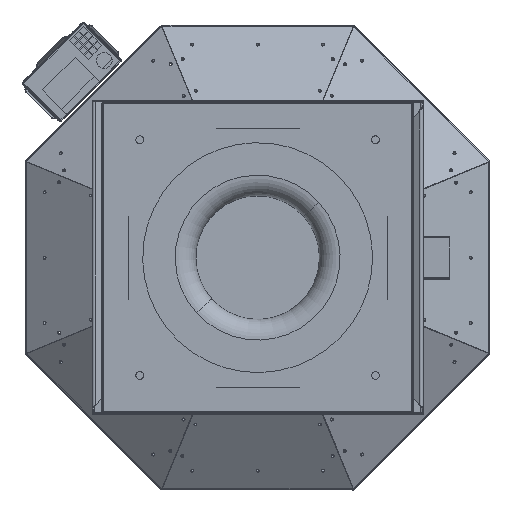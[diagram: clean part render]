
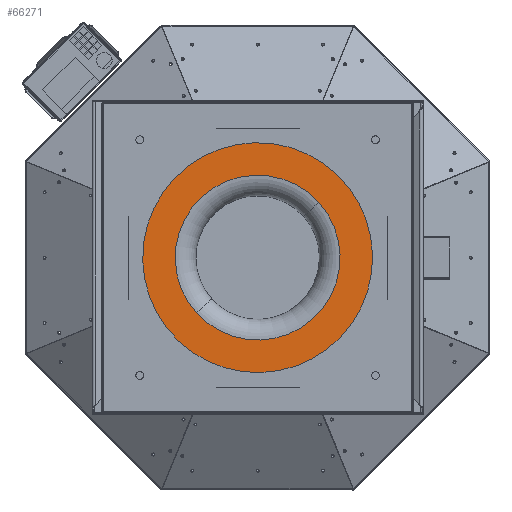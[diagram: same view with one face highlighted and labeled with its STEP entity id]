
A CAD part, front view. The second image highlights one B-rep face of the part: STEP entity #66271.
In plain terms, the highlighted planar face has unit normal (0, -1, 0).
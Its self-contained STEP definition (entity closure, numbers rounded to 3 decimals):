
#104 = CIRCLE ( 'NONE', #77442, 161. ) ;
#1818 = DIRECTION ( 'NONE',  ( 0.742, 0., 0.67 ) ) ;
#3590 = CIRCLE ( 'NONE', #20218, 161. ) ;
#4883 = DIRECTION ( 'NONE',  ( -0.742, 0., -0.67 ) ) ;
#5200 = EDGE_CURVE ( 'NONE', #56793, #73782, #19079, .T. ) ;
#7108 = CARTESIAN_POINT ( 'NONE',  ( -0.001, -5.7, 0.002 ) ) ;
#7331 = VERTEX_POINT ( 'NONE', #118572 ) ;
#12898 = VECTOR ( 'NONE', #1818, 1000. ) ;
#14113 = VERTEX_POINT ( 'NONE', #104412 ) ;
#17004 = DIRECTION ( 'NONE',  ( -0.742, 0., -0.67 ) ) ;
#19079 = LINE ( 'NONE', #60703, #12898 ) ;
#19323 = EDGE_CURVE ( 'NONE', #14113, #109976, #39822, .T. ) ;
#20218 = AXIS2_PLACEMENT_3D ( 'NONE', #53324, #121949, #63182 ) ;
#20333 = ORIENTED_EDGE ( 'NONE', *, *, #110455, .F. ) ;
#20905 = ORIENTED_EDGE ( 'NONE', *, *, #117029, .F. ) ;
#23481 = DIRECTION ( 'NONE',  ( 0., 1., 0. ) ) ;
#26640 = CARTESIAN_POINT ( 'NONE',  ( 98.175, -5.7, -127.602 ) ) ;
#27437 = AXIS2_PLACEMENT_3D ( 'NONE', #82261, #23481, #92192 ) ;
#27545 = ORIENTED_EDGE ( 'NONE', *, *, #46681, .F. ) ;
#28458 = PLANE ( 'NONE',  #65863 ) ;
#29112 = CARTESIAN_POINT ( 'NONE',  ( -0.001, -5.7, 0.002 ) ) ;
#30535 = CARTESIAN_POINT ( 'NONE',  ( -116.993, -5.7, 110.608 ) ) ;
#30549 = VERTEX_POINT ( 'NONE', #100352 ) ;
#32563 = EDGE_CURVE ( 'NONE', #71772, #32570, #123912, .T. ) ;
#32570 = VERTEX_POINT ( 'NONE', #54374 ) ;
#36470 = CARTESIAN_POINT ( 'NONE',  ( -110.607, -5.7, -116.991 ) ) ;
#38085 = VECTOR ( 'NONE', #113749, 1000. ) ;
#38945 = DIRECTION ( 'NONE',  ( 0.742, 0., 0.67 ) ) ;
#39133 = FACE_OUTER_BOUND ( 'NONE', #54293, .T. ) ;
#39822 = CIRCLE ( 'NONE', #54625, 115.5 ) ;
#41111 = AXIS2_PLACEMENT_3D ( 'NONE', #122570, #63794, #4883 ) ;
#45775 = CIRCLE ( 'NONE', #100028, 115.5 ) ;
#46681 = EDGE_CURVE ( 'NONE', #30549, #102430, #53569, .T. ) ;
#48236 = DIRECTION ( 'NONE',  ( -0.742, 0., -0.67 ) ) ;
#48849 = CIRCLE ( 'NONE', #41111, 161. ) ;
#53324 = CARTESIAN_POINT ( 'NONE',  ( -0.001, -5.7, 0.002 ) ) ;
#53569 = LINE ( 'NONE', #75593, #73538 ) ;
#54293 = EDGE_LOOP ( 'NONE', ( #20905, #86696, #95921, #73285, #56974, #54611, #71394, #27545 ) ) ;
#54374 = CARTESIAN_POINT ( 'NONE',  ( -127.604, -5.7, -98.174 ) ) ;
#54611 = ORIENTED_EDGE ( 'NONE', *, *, #118695, .F. ) ;
#54625 = AXIS2_PLACEMENT_3D ( 'NONE', #29112, #97793, #38945 ) ;
#56793 = VERTEX_POINT ( 'NONE', #30535 ) ;
#56974 = ORIENTED_EDGE ( 'NONE', *, *, #89524, .F. ) ;
#57339 = CARTESIAN_POINT ( 'NONE',  ( 85.71, -5.7, 77.422 ) ) ;
#58426 = VERTEX_POINT ( 'NONE', #26640 ) ;
#60703 = CARTESIAN_POINT ( 'NONE',  ( -116.993, -5.7, 110.608 ) ) ;
#62213 = FACE_BOUND ( 'NONE', #68554, .T. ) ;
#63182 = DIRECTION ( 'NONE',  ( -0.742, 0., -0.67 ) ) ;
#63560 = ORIENTED_EDGE ( 'NONE', *, *, #19323, .F. ) ;
#63794 = DIRECTION ( 'NONE',  ( 0., 1., 0. ) ) ;
#65863 = AXIS2_PLACEMENT_3D ( 'NONE', #97153, #107084, #48236 ) ;
#66271 = ADVANCED_FACE ( 'NONE', ( #62213, #39133 ), #28458, .F. ) ;
#68554 = EDGE_LOOP ( 'NONE', ( #63560, #20333 ) ) ;
#71394 = ORIENTED_EDGE ( 'NONE', *, *, #84332, .F. ) ;
#71772 = VERTEX_POINT ( 'NONE', #36470 ) ;
#73285 = ORIENTED_EDGE ( 'NONE', *, *, #32563, .F. ) ;
#73538 = VECTOR ( 'NONE', #85426, 1000. ) ;
#73782 = VERTEX_POINT ( 'NONE', #87604 ) ;
#74237 = CARTESIAN_POINT ( 'NONE',  ( 116.992, -5.7, -110.604 ) ) ;
#75593 = CARTESIAN_POINT ( 'NONE',  ( 110.605, -5.7, 116.994 ) ) ;
#75881 = DIRECTION ( 'NONE',  ( 0., 1., 0. ) ) ;
#77442 = AXIS2_PLACEMENT_3D ( 'NONE', #7108, #75881, #17004 ) ;
#82105 = DIRECTION ( 'NONE',  ( 0.742, 0., 0.67 ) ) ;
#82261 = CARTESIAN_POINT ( 'NONE',  ( -0.001, -5.7, 0.002 ) ) ;
#84332 = EDGE_CURVE ( 'NONE', #102430, #7331, #3590, .T. ) ;
#85426 = DIRECTION ( 'NONE',  ( 0.67, 0., -0.742 ) ) ;
#85926 = CARTESIAN_POINT ( 'NONE',  ( -0.001, -5.7, 0.002 ) ) ;
#86696 = ORIENTED_EDGE ( 'NONE', *, *, #5200, .F. ) ;
#87604 = CARTESIAN_POINT ( 'NONE',  ( -98.176, -5.7, 127.605 ) ) ;
#89524 = EDGE_CURVE ( 'NONE', #58426, #71772, #48849, .T. ) ;
#90540 = CARTESIAN_POINT ( 'NONE',  ( 127.603, -5.7, 98.177 ) ) ;
#92026 = DIRECTION ( 'NONE',  ( 0., -1., 0. ) ) ;
#92192 = DIRECTION ( 'NONE',  ( -0.742, 0., -0.67 ) ) ;
#93074 = EDGE_CURVE ( 'NONE', #32570, #56793, #94178, .T. ) ;
#93415 = CARTESIAN_POINT ( 'NONE',  ( -127.604, -5.7, -98.174 ) ) ;
#94178 = CIRCLE ( 'NONE', #27437, 161. ) ;
#94720 = VECTOR ( 'NONE', #103340, 1000. ) ;
#95921 = ORIENTED_EDGE ( 'NONE', *, *, #93074, .F. ) ;
#96516 = LINE ( 'NONE', #74237, #38085 ) ;
#97153 = CARTESIAN_POINT ( 'NONE',  ( -0.001, -5.7, 0.002 ) ) ;
#97793 = DIRECTION ( 'NONE',  ( 0., -1., 0. ) ) ;
#100028 = AXIS2_PLACEMENT_3D ( 'NONE', #85926, #92026, #82105 ) ;
#100352 = CARTESIAN_POINT ( 'NONE',  ( 110.605, -5.7, 116.994 ) ) ;
#102430 = VERTEX_POINT ( 'NONE', #90540 ) ;
#103340 = DIRECTION ( 'NONE',  ( -0.67, 0., 0.742 ) ) ;
#104412 = CARTESIAN_POINT ( 'NONE',  ( -85.711, -5.7, -77.419 ) ) ;
#107084 = DIRECTION ( 'NONE',  ( 0., 1., 0. ) ) ;
#109976 = VERTEX_POINT ( 'NONE', #57339 ) ;
#110455 = EDGE_CURVE ( 'NONE', #109976, #14113, #45775, .T. ) ;
#113749 = DIRECTION ( 'NONE',  ( -0.742, 0., -0.67 ) ) ;
#117029 = EDGE_CURVE ( 'NONE', #73782, #30549, #104, .T. ) ;
#118572 = CARTESIAN_POINT ( 'NONE',  ( 116.992, -5.7, -110.604 ) ) ;
#118695 = EDGE_CURVE ( 'NONE', #7331, #58426, #96516, .T. ) ;
#121949 = DIRECTION ( 'NONE',  ( 0., 1., 0. ) ) ;
#122570 = CARTESIAN_POINT ( 'NONE',  ( -0.001, -5.7, 0.002 ) ) ;
#123912 = LINE ( 'NONE', #93415, #94720 ) ;
